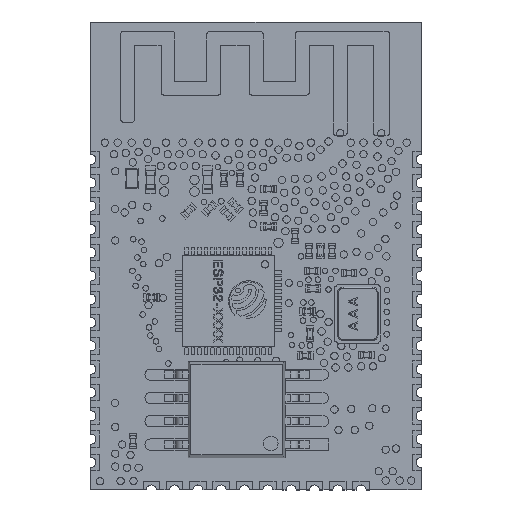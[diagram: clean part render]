
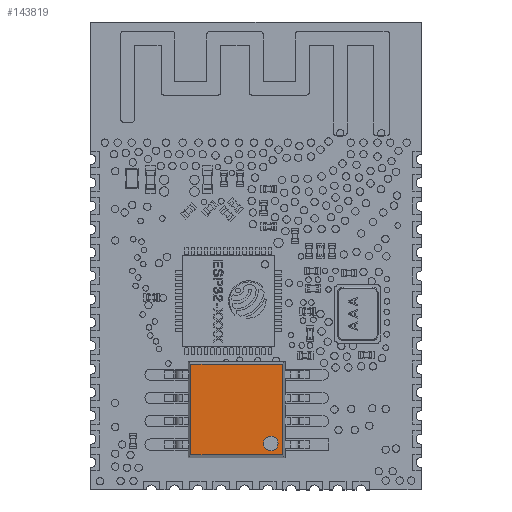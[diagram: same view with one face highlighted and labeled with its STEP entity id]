
A CAD part, top view. The second image highlights one B-rep face of the part: STEP entity #143819.
In plain terms, the highlighted planar face has unit normal (0, 0, 1) as drawn and (0, 1, 0) by its records, which use the part's own axes.
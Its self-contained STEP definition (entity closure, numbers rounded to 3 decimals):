
#143385 = VERTEX_POINT('',#143386);
#143386 = CARTESIAN_POINT('',(-1.85,0.8,2.25));
#143393 = CYLINDRICAL_SURFACE('',#143394,0.4);
#143394 = AXIS2_PLACEMENT_3D('',#143395,#143396,#143397);
#143395 = CARTESIAN_POINT('',(-1.85,0.7,1.85));
#143396 = DIRECTION('',(0.,1.,0.));
#143397 = DIRECTION('',(0.,-0.,1.));
#143405 = CYLINDRICAL_SURFACE('',#143406,0.4);
#143406 = AXIS2_PLACEMENT_3D('',#143407,#143408,#143409);
#143407 = CARTESIAN_POINT('',(-1.85,0.7,1.85));
#143408 = DIRECTION('',(0.,1.,0.));
#143409 = DIRECTION('',(0.,-0.,1.));
#143417 = EDGE_CURVE('',#143418,#143385,#143420,.T.);
#143418 = VERTEX_POINT('',#143419);
#143419 = CARTESIAN_POINT('',(-1.85,0.8,1.45));
#143420 = SURFACE_CURVE('',#143421,(#143426,#143433),.PCURVE_S1.);
#143421 = CIRCLE('',#143422,0.4);
#143422 = AXIS2_PLACEMENT_3D('',#143423,#143424,#143425);
#143423 = CARTESIAN_POINT('',(-1.85,0.8,1.85));
#143424 = DIRECTION('',(0.,1.,0.));
#143425 = DIRECTION('',(0.,-0.,1.));
#143426 = PCURVE('',#143393,#143427);
#143427 = DEFINITIONAL_REPRESENTATION('',(#143428),#143432);
#143428 = LINE('',#143429,#143430);
#143429 = CARTESIAN_POINT('',(0.,0.1));
#143430 = VECTOR('',#143431,1.);
#143431 = DIRECTION('',(1.,0.));
#143432 = ( GEOMETRIC_REPRESENTATION_CONTEXT(2) 
PARAMETRIC_REPRESENTATION_CONTEXT() REPRESENTATION_CONTEXT('2D SPACE',''
  ) );
#143433 = PCURVE('',#143434,#143439);
#143434 = PLANE('',#143435);
#143435 = AXIS2_PLACEMENT_3D('',#143436,#143437,#143438);
#143436 = CARTESIAN_POINT('',(0.,0.8,0.));
#143437 = DIRECTION('',(-0.,1.,0.));
#143438 = DIRECTION('',(1.,0.,0.));
#143439 = DEFINITIONAL_REPRESENTATION('',(#143440),#143444);
#143440 = CIRCLE('',#143441,0.4);
#143441 = AXIS2_PLACEMENT_2D('',#143442,#143443);
#143442 = CARTESIAN_POINT('',(-1.85,-1.85));
#143443 = DIRECTION('',(0.,-1.));
#143444 = ( GEOMETRIC_REPRESENTATION_CONTEXT(2) 
PARAMETRIC_REPRESENTATION_CONTEXT() REPRESENTATION_CONTEXT('2D SPACE',''
  ) );
#143510 = PLANE('',#143511);
#143511 = AXIS2_PLACEMENT_3D('',#143512,#143513,#143514);
#143512 = CARTESIAN_POINT('',(-2.615,0.,2.64));
#143513 = DIRECTION('',(-0.985,0.174,0.));
#143514 = DIRECTION('',(0.,0.,1.));
#143535 = VERTEX_POINT('',#143536);
#143536 = CARTESIAN_POINT('',(-2.474,0.8,2.499));
#143550 = PLANE('',#143551);
#143551 = AXIS2_PLACEMENT_3D('',#143552,#143553,#143554);
#143552 = CARTESIAN_POINT('',(2.615,0.,2.64));
#143553 = DIRECTION('',(0.,0.174,0.985
    ));
#143554 = DIRECTION('',(1.,0.,0.));
#143562 = EDGE_CURVE('',#143563,#143535,#143565,.T.);
#143563 = VERTEX_POINT('',#143564);
#143564 = CARTESIAN_POINT('',(-2.474,0.8,-2.499));
#143565 = SURFACE_CURVE('',#143566,(#143570,#143577),.PCURVE_S1.);
#143566 = LINE('',#143567,#143568);
#143567 = CARTESIAN_POINT('',(-2.474,0.8,2.64));
#143568 = VECTOR('',#143569,1.);
#143569 = DIRECTION('',(0.,0.,1.));
#143570 = PCURVE('',#143510,#143571);
#143571 = DEFINITIONAL_REPRESENTATION('',(#143572),#143576);
#143572 = LINE('',#143573,#143574);
#143573 = CARTESIAN_POINT('',(0.,0.812));
#143574 = VECTOR('',#143575,1.);
#143575 = DIRECTION('',(1.,0.));
#143576 = ( GEOMETRIC_REPRESENTATION_CONTEXT(2) 
PARAMETRIC_REPRESENTATION_CONTEXT() REPRESENTATION_CONTEXT('2D SPACE',''
  ) );
#143577 = PCURVE('',#143434,#143578);
#143578 = DEFINITIONAL_REPRESENTATION('',(#143579),#143583);
#143579 = LINE('',#143580,#143581);
#143580 = CARTESIAN_POINT('',(-2.474,-2.64));
#143581 = VECTOR('',#143582,1.);
#143582 = DIRECTION('',(0.,-1.));
#143583 = ( GEOMETRIC_REPRESENTATION_CONTEXT(2) 
PARAMETRIC_REPRESENTATION_CONTEXT() REPRESENTATION_CONTEXT('2D SPACE',''
  ) );
#143599 = PLANE('',#143600);
#143600 = AXIS2_PLACEMENT_3D('',#143601,#143602,#143603);
#143601 = CARTESIAN_POINT('',(2.615,0.,-2.64));
#143602 = DIRECTION('',(0.,0.174,
    -0.985));
#143603 = DIRECTION('',(-1.,0.,0.));
#143643 = VERTEX_POINT('',#143644);
#143644 = CARTESIAN_POINT('',(2.474,0.8,2.499));
#143658 = PLANE('',#143659);
#143659 = AXIS2_PLACEMENT_3D('',#143660,#143661,#143662);
#143660 = CARTESIAN_POINT('',(2.615,0.,2.64));
#143661 = DIRECTION('',(0.985,0.174,0.));
#143662 = DIRECTION('',(0.,0.,-1.));
#143670 = EDGE_CURVE('',#143535,#143643,#143671,.T.);
#143671 = SURFACE_CURVE('',#143672,(#143676,#143683),.PCURVE_S1.);
#143672 = LINE('',#143673,#143674);
#143673 = CARTESIAN_POINT('',(2.615,0.8,2.499));
#143674 = VECTOR('',#143675,1.);
#143675 = DIRECTION('',(1.,0.,0.));
#143676 = PCURVE('',#143550,#143677);
#143677 = DEFINITIONAL_REPRESENTATION('',(#143678),#143682);
#143678 = LINE('',#143679,#143680);
#143679 = CARTESIAN_POINT('',(0.,0.812));
#143680 = VECTOR('',#143681,1.);
#143681 = DIRECTION('',(1.,0.));
#143682 = ( GEOMETRIC_REPRESENTATION_CONTEXT(2) 
PARAMETRIC_REPRESENTATION_CONTEXT() REPRESENTATION_CONTEXT('2D SPACE',''
  ) );
#143683 = PCURVE('',#143434,#143684);
#143684 = DEFINITIONAL_REPRESENTATION('',(#143685),#143689);
#143685 = LINE('',#143686,#143687);
#143686 = CARTESIAN_POINT('',(2.615,-2.499));
#143687 = VECTOR('',#143688,1.);
#143688 = DIRECTION('',(1.,0.));
#143689 = ( GEOMETRIC_REPRESENTATION_CONTEXT(2) 
PARAMETRIC_REPRESENTATION_CONTEXT() REPRESENTATION_CONTEXT('2D SPACE',''
  ) );
#143724 = VERTEX_POINT('',#143725);
#143725 = CARTESIAN_POINT('',(2.474,0.8,-2.499));
#143746 = EDGE_CURVE('',#143643,#143724,#143747,.T.);
#143747 = SURFACE_CURVE('',#143748,(#143752,#143759),.PCURVE_S1.);
#143748 = LINE('',#143749,#143750);
#143749 = CARTESIAN_POINT('',(2.474,0.8,2.64));
#143750 = VECTOR('',#143751,1.);
#143751 = DIRECTION('',(0.,0.,-1.));
#143752 = PCURVE('',#143658,#143753);
#143753 = DEFINITIONAL_REPRESENTATION('',(#143754),#143758);
#143754 = LINE('',#143755,#143756);
#143755 = CARTESIAN_POINT('',(0.,0.812));
#143756 = VECTOR('',#143757,1.);
#143757 = DIRECTION('',(1.,0.));
#143758 = ( GEOMETRIC_REPRESENTATION_CONTEXT(2) 
PARAMETRIC_REPRESENTATION_CONTEXT() REPRESENTATION_CONTEXT('2D SPACE',''
  ) );
#143759 = PCURVE('',#143434,#143760);
#143760 = DEFINITIONAL_REPRESENTATION('',(#143761),#143765);
#143761 = LINE('',#143762,#143763);
#143762 = CARTESIAN_POINT('',(2.474,-2.64));
#143763 = VECTOR('',#143764,1.);
#143764 = DIRECTION('',(0.,1.));
#143765 = ( GEOMETRIC_REPRESENTATION_CONTEXT(2) 
PARAMETRIC_REPRESENTATION_CONTEXT() REPRESENTATION_CONTEXT('2D SPACE',''
  ) );
#143798 = EDGE_CURVE('',#143724,#143563,#143799,.T.);
#143799 = SURFACE_CURVE('',#143800,(#143804,#143811),.PCURVE_S1.);
#143800 = LINE('',#143801,#143802);
#143801 = CARTESIAN_POINT('',(2.615,0.8,-2.499));
#143802 = VECTOR('',#143803,1.);
#143803 = DIRECTION('',(-1.,0.,0.));
#143804 = PCURVE('',#143599,#143805);
#143805 = DEFINITIONAL_REPRESENTATION('',(#143806),#143810);
#143806 = LINE('',#143807,#143808);
#143807 = CARTESIAN_POINT('',(0.,0.812));
#143808 = VECTOR('',#143809,1.);
#143809 = DIRECTION('',(1.,0.));
#143810 = ( GEOMETRIC_REPRESENTATION_CONTEXT(2) 
PARAMETRIC_REPRESENTATION_CONTEXT() REPRESENTATION_CONTEXT('2D SPACE',''
  ) );
#143811 = PCURVE('',#143434,#143812);
#143812 = DEFINITIONAL_REPRESENTATION('',(#143813),#143817);
#143813 = LINE('',#143814,#143815);
#143814 = CARTESIAN_POINT('',(2.615,2.499));
#143815 = VECTOR('',#143816,1.);
#143816 = DIRECTION('',(-1.,0.));
#143817 = ( GEOMETRIC_REPRESENTATION_CONTEXT(2) 
PARAMETRIC_REPRESENTATION_CONTEXT() REPRESENTATION_CONTEXT('2D SPACE',''
  ) );
#143819 = ADVANCED_FACE('',(#143820,#143826),#143434,.T.);
#143820 = FACE_BOUND('',#143821,.T.);
#143821 = EDGE_LOOP('',(#143822,#143823,#143824,#143825));
#143822 = ORIENTED_EDGE('',*,*,#143562,.T.);
#143823 = ORIENTED_EDGE('',*,*,#143670,.T.);
#143824 = ORIENTED_EDGE('',*,*,#143746,.T.);
#143825 = ORIENTED_EDGE('',*,*,#143798,.T.);
#143826 = FACE_BOUND('',#143827,.T.);
#143827 = EDGE_LOOP('',(#143828,#143850));
#143828 = ORIENTED_EDGE('',*,*,#143829,.F.);
#143829 = EDGE_CURVE('',#143385,#143418,#143830,.T.);
#143830 = SURFACE_CURVE('',#143831,(#143836,#143843),.PCURVE_S1.);
#143831 = CIRCLE('',#143832,0.4);
#143832 = AXIS2_PLACEMENT_3D('',#143833,#143834,#143835);
#143833 = CARTESIAN_POINT('',(-1.85,0.8,1.85));
#143834 = DIRECTION('',(0.,1.,0.));
#143835 = DIRECTION('',(0.,-0.,1.));
#143836 = PCURVE('',#143434,#143837);
#143837 = DEFINITIONAL_REPRESENTATION('',(#143838),#143842);
#143838 = CIRCLE('',#143839,0.4);
#143839 = AXIS2_PLACEMENT_2D('',#143840,#143841);
#143840 = CARTESIAN_POINT('',(-1.85,-1.85));
#143841 = DIRECTION('',(0.,-1.));
#143842 = ( GEOMETRIC_REPRESENTATION_CONTEXT(2) 
PARAMETRIC_REPRESENTATION_CONTEXT() REPRESENTATION_CONTEXT('2D SPACE',''
  ) );
#143843 = PCURVE('',#143405,#143844);
#143844 = DEFINITIONAL_REPRESENTATION('',(#143845),#143849);
#143845 = LINE('',#143846,#143847);
#143846 = CARTESIAN_POINT('',(0.,0.1));
#143847 = VECTOR('',#143848,1.);
#143848 = DIRECTION('',(1.,0.));
#143849 = ( GEOMETRIC_REPRESENTATION_CONTEXT(2) 
PARAMETRIC_REPRESENTATION_CONTEXT() REPRESENTATION_CONTEXT('2D SPACE',''
  ) );
#143850 = ORIENTED_EDGE('',*,*,#143417,.F.);
